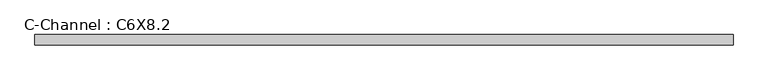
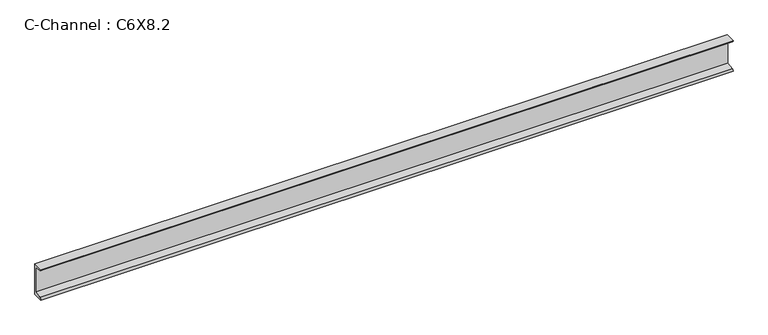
"""IFC4 building model written with IfcOpenShell, lengths in millimetres: beam geometry, C-Channel : C6X8.2."""

from ifc_helpers import new_model, si_unit, point, frame, frame_2d, origin, place, context, project, spatial, polyline, circle_curve, trimmed, segment, composite_curve, outline, extrude, source, transform, mapped, element, save


def c_channel_c6x8_2_3719a647(model_context):
    return source(origin(), model_context, "Body", "SweptSolid", [
        extrude(outline(composite_curve([segment(polyline([(13.0048, 76.2), (13.0048, -76.2), (-35.7632, -76.2)]), True, "CONTINUOUS"), segment(trimmed(circle_curve(frame_2d((-27.051, -76.2)), 8.7122), [point((-35.7632, -76.2))], [point((-27.051, -67.4878))], False, "CARTESIAN"), True, "CONTINUOUS"), segment(polyline([(-27.051, -67.4878), (7.9248, -61.9481775), (7.9248, 61.9481775), (-27.051, 67.4878)]), True, "CONTINUOUS"), segment(trimmed(circle_curve(frame_2d((-27.051, 76.2)), 8.7122), [point((-27.051, 67.4878))], [point((-35.7632, 76.2))], False, "CARTESIAN"), True, "CONTINUOUS"), segment(polyline([(-35.7632, 76.2), (13.0048, 76.2)]), True, "CONTINUOUS")], self_intersect=False)), frame((-1573.2216562, 0.0, 0.0), z_axis=(1.0, 0.0, 0.0), x_axis=(0.0, 1.0, 0.0)), (0.0, 0.0, 1.0), 3270.9309298),
    ])


if __name__ == "__main__":
    model = new_model("IFC4")
    model_context = context("Model", 3, world=origin())
    ifc_project = project(units=[si_unit("LENGTHUNIT", "METRE", prefix="MILLI")], contexts=[model_context])
    site = spatial("IfcSite", under=ifc_project)
    building = spatial("IfcBuilding", under=site)
    placement = place(None, origin())
    c_channel_c6x8_2_shape = c_channel_c6x8_2_3719a647(model_context)
    element("IfcBeam", 1, ObjectType="C-Channel : C6X8.2", at=placement, inside=building, context=model_context, shape_type="MappedRepresentation", body=[
        mapped(c_channel_c6x8_2_shape, transform((0.0, 0.0, 0.0), x_axis=(1.0, 0.0, 0.0), y_axis=(0.0, 1.0, 0.0), z_axis=(0.0, 0.0, 1.0))),
    ])
    save(model, "model.ifc")
